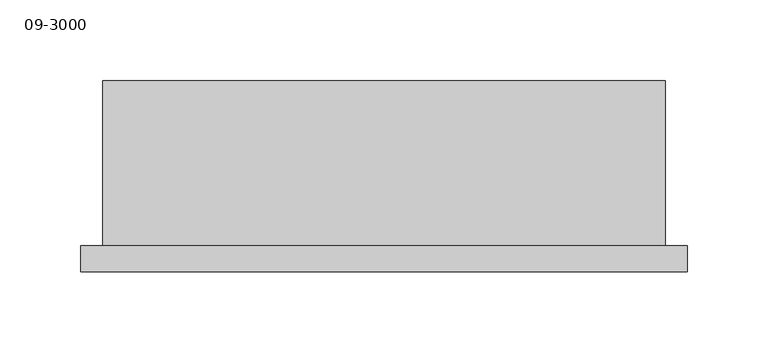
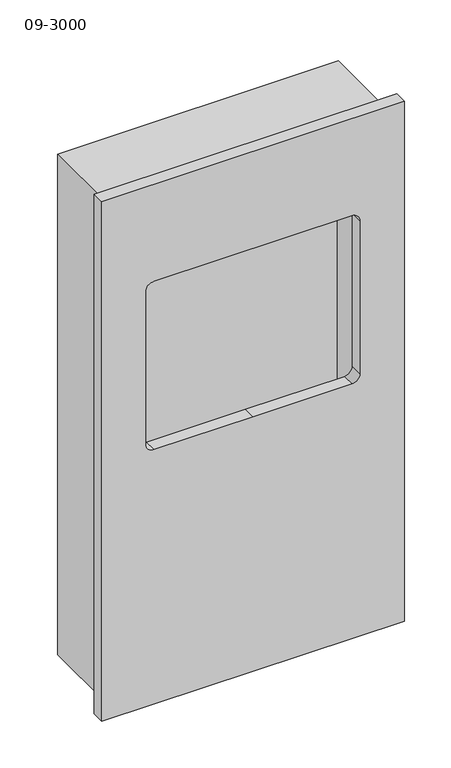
"""IFC4 building model written with IfcOpenShell, lengths in millimetres: proxy geometry, 09-3000 : 09.3000 Dolphin 2 in 1 Combination Unit - Bespoke Finish."""

from ifc_helpers import new_model, si_unit, point, frame, frame_2d, origin, place, context, project, spatial, polyline, circle_curve, trimmed, segment, composite_curve, outline, extrude, source, transform, mapped, element, save
from ifc_brep_helpers import plane_surface, revolved_surface, advanced_brep


def proxy_09_3000_6654ff81(model_context):
    return source(origin(), model_context, "Body", "SolidModel", [
        advanced_brep(
        [(135.0, 100.0, 883.6029766), (135.0, 100.0, 893.6029766), (135.0, 0.0, 930.0), (135.0, 0.0, 920.0), (-135.0, 100.0, 883.6029766), (-135.0, 0.0, 920.0), (-135.0, 0.0, 930.0), (-135.0, 100.0, 893.6029766), (101.854407, 30.1081096, 919.0415443), (-101.8533872, 30.1081096, 919.0415443), (-103.5441955, 47.0427341, 912.877845), (103.5452153, 47.0427341, 912.877845), (-101.8533872, 26.8941716, 910.2113221), (101.854407, 26.8941716, 910.2113221), (103.5452153, 43.8287961, 904.0476228), (-103.5441955, 43.8287961, 904.0476228)],
        [
            (0, 1),
            (1, 2),
            (2, 3),
            (3, 0),
            (4, 5),
            (5, 6),
            (6, 7),
            (7, 4),
            (0, 4),
            (7, 1),
            (6, 2),
            (8, 9, circle_curve(frame((0.0005099, 295.7704212, 822.3483705), z_axis=(0.0, -0.3420201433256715, -0.9396926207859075), x_axis=(0.8583730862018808, 0.4820867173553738, -0.1754652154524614)), 300.5)),
            (9, 10, circle_curve(frame((-98.4639064, 38.9487855, 915.8238014), z_axis=(0.0, -0.3420201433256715, -0.9396926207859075), x_axis=(0.8583730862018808, 0.4820867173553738, -0.1754652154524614)), 10.0)),
            (10, 11, circle_curve(frame((0.0005099, -117.9253431, 972.9213148), z_axis=(0.0, -0.3420201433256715, -0.9396926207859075), x_axis=(0.8583730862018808, 0.4820867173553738, -0.1754652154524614)), 203.8165616)),
            (11, 8, circle_curve(frame((98.4649262, 38.9487855, 915.8238014), z_axis=(0.0, -0.3420201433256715, -0.9396926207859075), x_axis=(0.8583730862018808, 0.4820867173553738, -0.1754652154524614)), 10.0)),
            (5, 3),
            (12, 13, circle_curve(frame((0.0005099, 292.5564831, 813.5181483), z_axis=(0.0, 0.3420201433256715, 0.9396926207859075), x_axis=(0.8583730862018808, 0.4820867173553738, -0.1754652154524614)), 300.5)),
            (13, 14, circle_curve(frame((98.4649262, 35.7348475, 906.9935792), z_axis=(0.0, 0.3420201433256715, 0.9396926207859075), x_axis=(0.8583730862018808, 0.4820867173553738, -0.1754652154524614)), 10.0)),
            (14, 15, circle_curve(frame((0.0005099, -121.1392812, 964.0910925), z_axis=(0.0, 0.3420201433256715, 0.9396926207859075), x_axis=(0.8583730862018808, 0.4820867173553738, -0.1754652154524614)), 203.8165616)),
            (15, 12, circle_curve(frame((-98.4639064, 35.7348475, 906.9935792), z_axis=(0.0, 0.3420201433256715, 0.9396926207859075), x_axis=(0.8583730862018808, 0.4820867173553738, -0.1754652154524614)), 10.0)),
            (12, 9),
            (8, 13),
            (11, 14),
            (10, 15),
        ],
        [
            plane_surface(frame((135.0, 100.0, 883.6029766), z_axis=(1.0, 0.0, 0.0), x_axis=(0.0, 0.0, 1.0))),
            plane_surface(frame((-135.0, 100.0, 883.6029766), z_axis=(-1.0, 0.0, 0.0), x_axis=(0.0, 0.0, -1.0))),
            plane_surface(frame((135.0, 100.0, 883.6029766), z_axis=(0.0, 1.0, 0.0), x_axis=(-1.0, 0.0, 0.0))),
            plane_surface(frame((135.0, 100.0, 893.6029766), z_axis=(0.0, 0.34202014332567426, 0.9396926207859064), x_axis=(-1.0, 0.0, 0.0))),
            plane_surface(frame((135.0, 0.0, 930.0), z_axis=(0.0, -1.0, 0.0), x_axis=(-1.0, 0.0, 0.0))),
            plane_surface(frame((135.0, 0.0, 920.0), z_axis=(0.0, -0.3420201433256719, -0.9396926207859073), x_axis=(-1.0, 0.0, 0.0))),
            revolved_surface(polyline([(257.94162230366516, 440.63747971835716, 769.6210732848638), (257.94162230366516, 437.4235416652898, 760.7908510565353)]), (0.0005099, 292.5564831, 813.5181483), (0.0, 0.3420201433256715, 0.9396926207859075)),
            revolved_surface(polyline([(107.0486570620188, 43.76965271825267, 914.0691492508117), (107.0486570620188, 40.55571466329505, 905.2389270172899)]), (98.4649262, 35.7348475, 906.9935792), (0.0, 0.3420201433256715, 0.9396926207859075)),
            revolved_surface(polyline([(174.95116089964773, -19.668085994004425, 937.158597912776), (174.95116089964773, -22.882024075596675, 928.3283756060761)]), (0.0005099, -121.1392812, 964.0910925), (0.0, 0.3420201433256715, 0.9396926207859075)),
            revolved_surface(polyline([(-89.88017553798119, 43.76965271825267, 914.0691492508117), (-89.88017553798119, 40.55571466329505, 905.2389270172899)]), (-98.4639064, 35.7348475, 906.9935792), (0.0, 0.3420201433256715, 0.9396926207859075)),
        ],
        [
            (0, [[1, 2, 3, 4]]),
            (1, [[5, 6, 7, 8]]),
            (2, [[-1, 9, -8, 10]]),
            (3, [[-2, -10, -7, 11], [12, 13, 14, 15]]),
            (4, [[-3, -11, -6, 16]]),
            (5, [[-4, -16, -5, -9], [17, 18, 19, 20]]),
            (6, [[21, -12, 22, -17]]),
            (7, [[-22, -15, 23, -18]]),
            (8, [[-23, -14, 24, -19]]),
            (9, [[-21, -20, -24, -13]]),
        ],
    ),
        extrude(outline(polyline([(1047.0, 187.5), (1047.0, -187.5), (367.0, -187.5), (367.0, 187.5), (1047.0, 187.5)]), holes=[composite_curve([segment(polyline([(700.0, 122.5), (700.0, 0.0), (700.0, -122.5)]), True, "CONTINUOUS"), segment(trimmed(circle_curve(frame_2d((710.0, -122.5)), 10.0), [point((700.0, -122.5))], [point((710.0, -132.5))], True, "CARTESIAN"), True, "CONTINUOUS"), segment(polyline([(710.0, -132.5), (910.0, -132.5)]), True, "CONTINUOUS"), segment(trimmed(circle_curve(frame_2d((910.0, -122.5)), 10.0), [point((910.0, -132.5))], [point((920.0, -122.5))], True, "CARTESIAN"), True, "CONTINUOUS"), segment(polyline([(920.0, -122.5), (920.0, 122.5)]), True, "CONTINUOUS"), segment(trimmed(circle_curve(frame_2d((910.0, 122.5)), 10.0), [point((920.0, 122.5))], [point((910.0, 132.5))], True, "CARTESIAN"), True, "CONTINUOUS"), segment(polyline([(910.0, 132.5), (710.0, 132.5)]), True, "CONTINUOUS"), segment(trimmed(circle_curve(frame_2d((710.0, 122.5)), 10.0), [point((710.0, 132.5))], [point((700.0, 122.5))], True, "CARTESIAN"), True, "CONTINUOUS")], self_intersect=False)]), frame((0.0, -16.0, 0.0), z_axis=(0.0, 1.0, 0.0), x_axis=(0.0, 0.0, 1.0)), (0.0, 0.0, 1.0), 16.0),
        extrude(outline(polyline([(171.0, 100.0), (-171.0, 100.0), (-171.0, 102.0), (171.0, 102.0), (171.0, 100.0)])), frame((0.0, 0.0, 381.0), z_axis=(0.0, 0.0, 1.0), x_axis=(1.0, 0.0, 0.0)), (0.0, 0.0, 1.0), 649.0),
        extrude(outline(polyline([(1033.0, -174.0), (378.0, -174.0), (378.0, 174.0), (1033.0, 174.0), (1033.0, -174.0)]), holes=[polyline([(1030.0, 171.0), (381.0, 171.0), (381.0, -171.0), (1030.0, -171.0), (1030.0, 171.0)])]), frame((0.0, 0.0, 0.0), z_axis=(0.0, 1.0, 0.0), x_axis=(0.0, 0.0, 1.0)), (0.0, 0.0, 1.0), 102.0),
    ])


if __name__ == "__main__":
    model = new_model("IFC4")
    model_context = context("Model", 3, world=origin())
    ifc_project = project(units=[si_unit("LENGTHUNIT", "METRE", prefix="MILLI")], contexts=[model_context])
    site = spatial("IfcSite", under=ifc_project)
    building = spatial("IfcBuilding", under=site)
    placement = place(None, origin())
    proxy_09_3000_shape = proxy_09_3000_6654ff81(model_context)
    element("IfcBuildingElementProxy", 1, Name="09-3000 : 09.3000 Dolphin 2 in 1 Combination Unit - Bespoke Finish", ObjectType="09-3000 : 09.3000 Dolphin 2 in 1 Combination Unit - Bespoke Finish", at=placement, inside=building, context=model_context, shape_type="MappedRepresentation", body=[
        mapped(proxy_09_3000_shape, transform((0.0, 0.0, 0.0), x_axis=(1.0, 0.0, 0.0), y_axis=(0.0, 1.0, 0.0), z_axis=(0.0, 0.0, 1.0))),
    ])
    save(model, "model.ifc")
